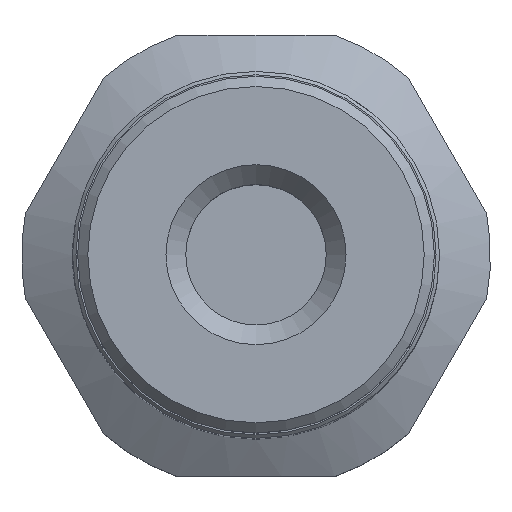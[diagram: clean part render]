
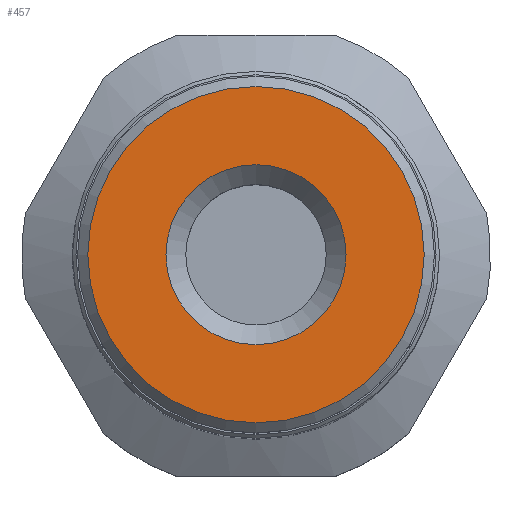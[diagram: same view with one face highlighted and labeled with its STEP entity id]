
A CAD part, top view. The second image highlights one B-rep face of the part: STEP entity #457.
In plain terms, the highlighted planar face has unit normal (0, 0, 1).
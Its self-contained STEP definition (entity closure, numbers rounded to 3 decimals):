
#62=PLANE('',#514);
#88=FACE_BOUND('',#162,.T.);
#89=FACE_BOUND('',#163,.T.);
#162=EDGE_LOOP('',(#403));
#163=EDGE_LOOP('',(#404));
#205=CIRCLE('',#509,2.65);
#208=CIRCLE('',#515,4.95);
#246=VERTEX_POINT('',#790);
#249=VERTEX_POINT('',#799);
#302=EDGE_CURVE('',#246,#246,#205,.T.);
#305=EDGE_CURVE('',#249,#249,#208,.T.);
#403=ORIENTED_EDGE('',*,*,#302,.T.);
#404=ORIENTED_EDGE('',*,*,#305,.F.);
#457=ADVANCED_FACE('',(#88,#89),#62,.T.);
#509=AXIS2_PLACEMENT_3D('',#791,#622,#623);
#514=AXIS2_PLACEMENT_3D('',#798,#632,#633);
#515=AXIS2_PLACEMENT_3D('',#800,#634,#635);
#622=DIRECTION('center_axis',(0.,0.,-1.));
#623=DIRECTION('ref_axis',(1.,0.,0.));
#632=DIRECTION('center_axis',(0.,0.,1.));
#633=DIRECTION('ref_axis',(1.,0.,0.));
#634=DIRECTION('center_axis',(0.,0.,-1.));
#635=DIRECTION('ref_axis',(1.,0.,0.));
#790=CARTESIAN_POINT('',(2.65,0.,11.1));
#791=CARTESIAN_POINT('Origin',(0.,0.,11.1));
#798=CARTESIAN_POINT('Origin',(0.,4.95,11.1));
#799=CARTESIAN_POINT('',(0.,4.95,11.1));
#800=CARTESIAN_POINT('Origin',(0.,0.,11.1));
